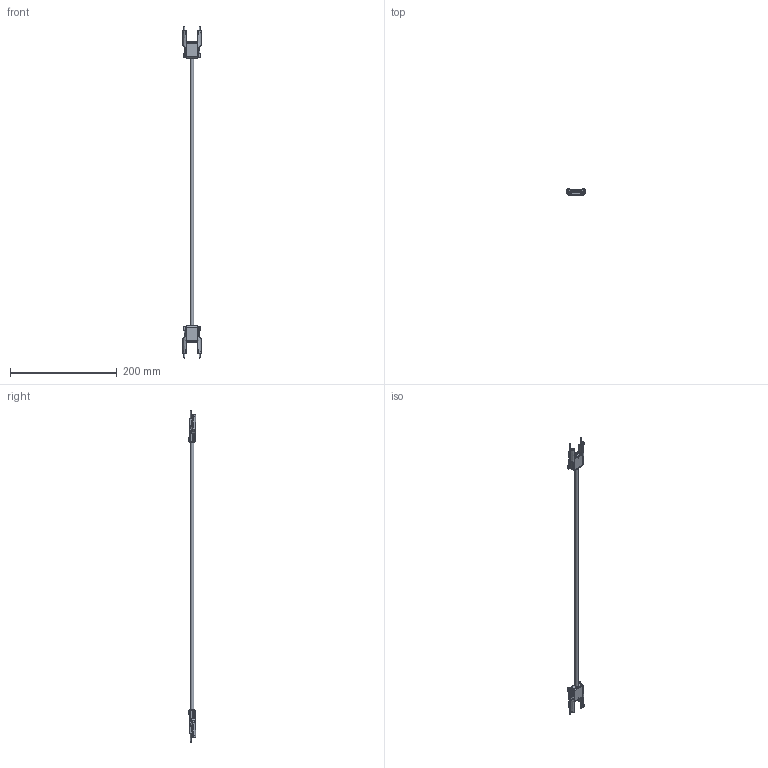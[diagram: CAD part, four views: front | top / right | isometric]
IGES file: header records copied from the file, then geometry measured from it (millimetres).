
Global section: file name: C:\Users\lrossetti\OneDrive - Datalogic S.p.a\Desktop\SG4E plugs - DSD igs\DSD-0344.igs; native system: NX V12.0; preprocessor: SIEMENS PLM Software NX 12.0; date: 20200605.160840; units: millimetre
Bounding box: 35 x 13.4 x 621.4 mm (x, y, z)
Surface area: 32655 mm2 (no closed solid volume)
Topology: 0 solids, 0 shells, 1545 faces, 8434 edges, 8330 vertices
Faces by surface type: bspline 1545
